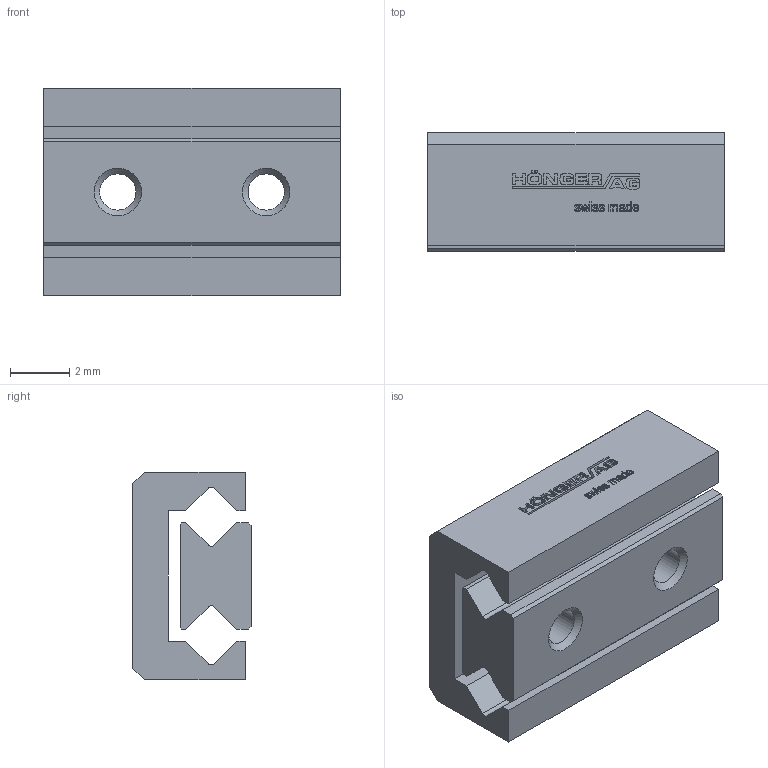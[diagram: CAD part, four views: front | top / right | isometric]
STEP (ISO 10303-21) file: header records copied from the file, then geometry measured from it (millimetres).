
FILE_DESCRIPTION(/* description */ ('STEP AP214'),/* implementation_level */ '2;1');
FILE_NAME(/* name */ 'MSR 4-10.06(0)',/* time_stamp */ '2025-04-16T17:15:49+02:00',/* author */ ('License CC BY-ND 4.0'),/* organization */ ('CADENAS'),/* preprocessor_version */ 'ST-DEVELOPER v19.3',/* originating_system */ 'PARTsolutions',/* authorisation */ ' ');
FILE_SCHEMA (('AUTOMOTIVE_DESIGN {1 0 10303 214 3 1 1}'));
Length unit declared in the file: millimetre
Products named in the file (3): MSR 4-10.06(0); MSR 4-10.06_1; MSR 4-10.06_2
Assembly tree (2 placements, depth 2):
  MSR 4-10.06(0)
    MSR 4-10.06_1
    MSR 4-10.06_2
Bounding box: 10 x 4 x 7 mm (x, y, z)
Volume: 197.6 mm3; surface area: 473.3 mm2
Topology: 2 solids, 2 shells, 513 faces, 1442 edges, 960 vertices
Faces by surface type: cylinder 300, plane 207, cone 6
Full cylindrical faces by diameter (mm): 1.221 x4
Entity records: 16813 total; most frequent: DIRECTION 3068, CARTESIAN_POINT 2904, ORIENTED_EDGE 2860, EDGE_CURVE 1430, AXIS2_PLACEMENT_3D 1122, VERTEX_POINT 958, LINE 824, VECTOR 824
